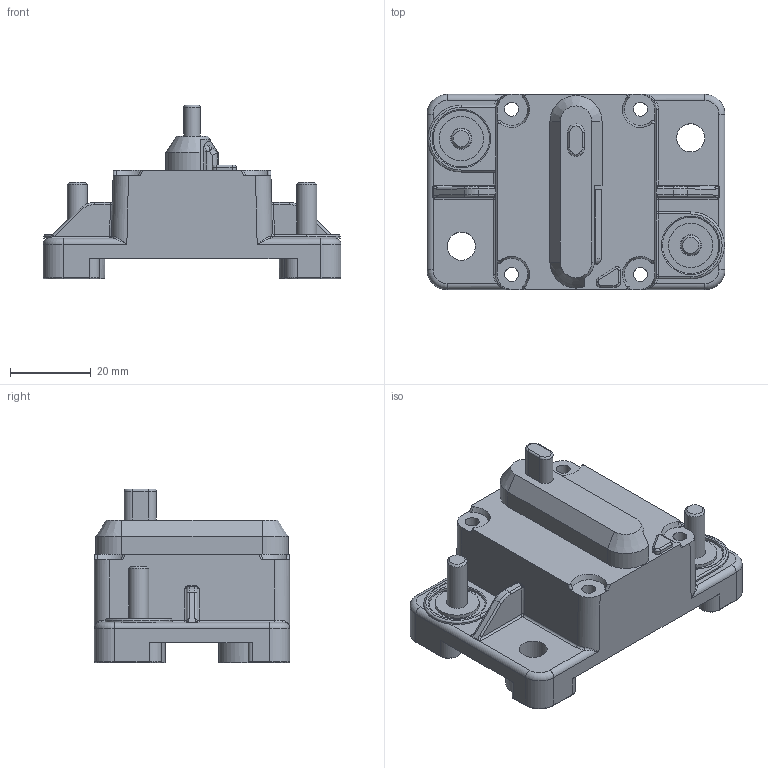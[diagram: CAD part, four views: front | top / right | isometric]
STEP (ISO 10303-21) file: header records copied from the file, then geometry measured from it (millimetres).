
FILE_DESCRIPTION(/* description */ (''),/* implementation_level */ '2;1');
FILE_NAME(/* name */ 'C:\Users\Hani\Desktop\work\Manual Reset Circuit Breaker 153 series\Circuit_Breaker series 153.stp',/* time_stamp */ '2020-06-22T19:44:34-07:00',/* author */ ('Hani'),/* organization */ (''),/* preprocessor_version */ 'ST-DEVELOPER v17',/* originating_system */ 'Autodesk Inventor 2019',/* authorisation */ '');
FILE_SCHEMA (('AUTOMOTIVE_DESIGN { 1 0 10303 214 3 1 1 }'));
Length unit declared in the file: inch
Products named in the file (1): Circuit_Breaker series 153
Bounding box: 74 x 48.5 x 43.2 mm (x, y, z)
Volume: 55061.7 mm3; surface area: 17207.7 mm2
Topology: 1 solids, 1 shells, 319 faces, 802 edges, 483 vertices
Faces by surface type: cylinder 122, plane 111, bspline 44, torus 33, sphere 5, cone 4
Full cylindrical faces by diameter (mm): 3.5 x4, 5 x2, 5.25 x2, 5.5 x1, 7 x4, 7.7 x1, 11 x2, 14.025 x2
Entity records: 11366 total; most frequent: CARTESIAN_POINT 3798, ORIENTED_EDGE 1580, DIRECTION 1557, EDGE_CURVE 790, AXIS2_PLACEMENT_3D 594, VERTEX_POINT 483, LINE 369, VECTOR 369
